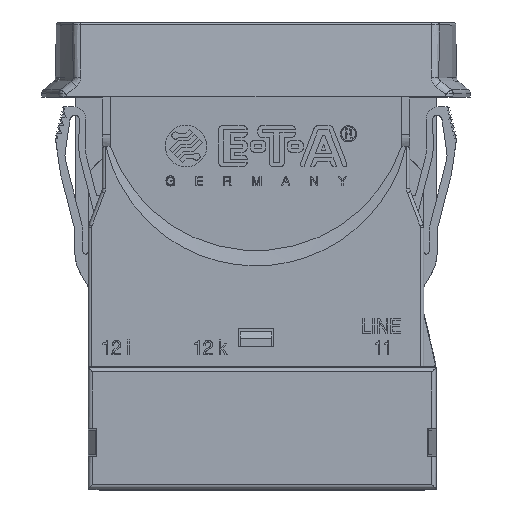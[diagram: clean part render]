
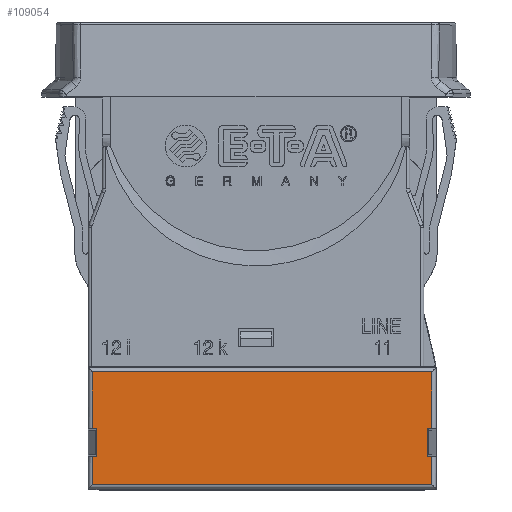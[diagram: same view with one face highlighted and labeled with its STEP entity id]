
A CAD part, top view. The second image highlights one B-rep face of the part: STEP entity #109054.
In plain terms, the highlighted planar face has unit normal (0, 0, 1).
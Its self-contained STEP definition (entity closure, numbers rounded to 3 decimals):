
#39385=CARTESIAN_POINT('',(21.5,-7.483,10.45));
#39415=CARTESIAN_POINT('',(-20.,-7.483,10.45));
#39501=CARTESIAN_POINT('',(21.5,-10.917,10.45));
#39523=CARTESIAN_POINT('',(-20.,-10.917,10.45));
#39537=DIRECTION('',(0.,-1.,0.));
#39538=VECTOR('',#39537,3.483);
#39539=CARTESIAN_POINT('',(-20.,-10.917,10.45));
#39540=LINE('',#39539,#39538);
#39541=DIRECTION('',(-1.,0.,0.));
#39542=VECTOR('',#39541,0.5);
#39543=CARTESIAN_POINT('',(-19.5,-10.917,10.45));
#39544=LINE('',#39543,#39542);
#39545=DIRECTION('',(0.,-1.,0.));
#39546=VECTOR('',#39545,3.435);
#39547=CARTESIAN_POINT('',(-19.5,-7.483,10.45));
#39548=LINE('',#39547,#39546);
#39549=DIRECTION('',(-1.,0.,0.));
#39550=VECTOR('',#39549,0.5);
#39551=CARTESIAN_POINT('',(-19.5,-7.483,10.45));
#39552=LINE('',#39551,#39550);
#39553=DIRECTION('',(0.,-1.,0.));
#39554=VECTOR('',#39553,6.883);
#39555=CARTESIAN_POINT('',(-20.,-0.6,10.45));
#39556=LINE('',#39555,#39554);
#39557=DIRECTION('',(-1.,0.,0.));
#39558=VECTOR('',#39557,41.5);
#39559=CARTESIAN_POINT('',(21.5,-0.6,10.45));
#39560=LINE('',#39559,#39558);
#39561=DIRECTION('',(0.,1.,0.));
#39562=VECTOR('',#39561,6.883);
#39563=CARTESIAN_POINT('',(21.5,-7.483,10.45));
#39564=LINE('',#39563,#39562);
#39565=DIRECTION('',(1.,0.,0.));
#39566=VECTOR('',#39565,0.5);
#39567=CARTESIAN_POINT('',(21.,-7.483,10.45));
#39568=LINE('',#39567,#39566);
#39569=DIRECTION('',(0.,-1.,0.));
#39570=VECTOR('',#39569,3.435);
#39571=CARTESIAN_POINT('',(21.,-7.483,10.45));
#39572=LINE('',#39571,#39570);
#39573=DIRECTION('',(1.,0.,0.));
#39574=VECTOR('',#39573,0.5);
#39575=CARTESIAN_POINT('',(21.,-10.917,10.45));
#39576=LINE('',#39575,#39574);
#39577=DIRECTION('',(0.,1.,0.));
#39578=VECTOR('',#39577,3.483);
#39579=CARTESIAN_POINT('',(21.5,-14.4,10.45));
#39580=LINE('',#39579,#39578);
#39581=DIRECTION('',(1.,0.,0.));
#39582=VECTOR('',#39581,41.5);
#39583=CARTESIAN_POINT('',(-20.,-14.4,10.45));
#39584=LINE('',#39583,#39582);
#39766=CARTESIAN_POINT('',(-20.,-0.6,10.45));
#52180=CARTESIAN_POINT('',(-19.5,-7.483,10.45));
#52181=CARTESIAN_POINT('',(-19.5,-10.917,10.45));
#52182=VERTEX_POINT('',#52180);
#52183=VERTEX_POINT('',#52181);
#52196=CARTESIAN_POINT('',(21.,-7.483,10.45));
#52197=CARTESIAN_POINT('',(21.,-10.917,10.45));
#52198=VERTEX_POINT('',#52196);
#52199=VERTEX_POINT('',#52197);
#52394=VERTEX_POINT('',#39766);
#52396=VERTEX_POINT('',#39523);
#52397=CARTESIAN_POINT('',(-20.,-14.4,10.45));
#52398=VERTEX_POINT('',#52397);
#52403=CARTESIAN_POINT('',(21.5,-14.4,10.45));
#52404=VERTEX_POINT('',#52403);
#52405=VERTEX_POINT('',#39501);
#52409=CARTESIAN_POINT('',(21.5,-0.6,10.45));
#52410=VERTEX_POINT('',#52409);
#52412=VERTEX_POINT('',#39385);
#52413=VERTEX_POINT('',#39415);
#109029=CARTESIAN_POINT('',(0.75,-7.5,10.45));
#109030=DIRECTION('',(0.,0.,1.));
#109031=DIRECTION('',(-1.,0.,0.));
#109032=AXIS2_PLACEMENT_3D('',#109029,#109030,#109031);
#109033=PLANE('',#109032);
#109035=ORIENTED_EDGE('',*,*,#109034,.F.);
#109036=ORIENTED_EDGE('',*,*,#109001,.F.);
#109038=ORIENTED_EDGE('',*,*,#109037,.F.);
#109039=ORIENTED_EDGE('',*,*,#108864,.T.);
#109041=ORIENTED_EDGE('',*,*,#109040,.F.);
#109043=ORIENTED_EDGE('',*,*,#109042,.F.);
#109045=ORIENTED_EDGE('',*,*,#109044,.F.);
#109046=ORIENTED_EDGE('',*,*,#108828,.F.);
#109047=ORIENTED_EDGE('',*,*,#109023,.T.);
#109048=ORIENTED_EDGE('',*,*,#108984,.T.);
#109049=ORIENTED_EDGE('',*,*,#108963,.F.);
#109051=ORIENTED_EDGE('',*,*,#109050,.F.);
#109052=EDGE_LOOP('',(#109035,#109036,#109038,#109039,#109041,#109043,#109045,
#109046,#109047,#109048,#109049,#109051));
#109053=FACE_OUTER_BOUND('',#109052,.F.);
#108828=EDGE_CURVE('',#52198,#52412,#39568,.T.);
#108864=EDGE_CURVE('',#52182,#52413,#39552,.T.);
#108963=EDGE_CURVE('',#52404,#52405,#39580,.T.);
#108984=EDGE_CURVE('',#52199,#52405,#39576,.T.);
#109001=EDGE_CURVE('',#52183,#52396,#39544,.T.);
#109023=EDGE_CURVE('',#52198,#52199,#39572,.T.);
#109034=EDGE_CURVE('',#52396,#52398,#39540,.T.);
#109037=EDGE_CURVE('',#52182,#52183,#39548,.T.);
#109040=EDGE_CURVE('',#52394,#52413,#39556,.T.);
#109042=EDGE_CURVE('',#52410,#52394,#39560,.T.);
#109044=EDGE_CURVE('',#52412,#52410,#39564,.T.);
#109050=EDGE_CURVE('',#52398,#52404,#39584,.T.);
#109054=ADVANCED_FACE('',(#109053),#109033,.T.);
